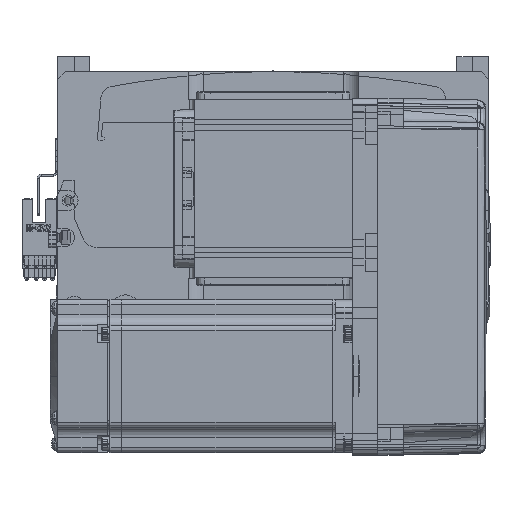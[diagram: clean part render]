
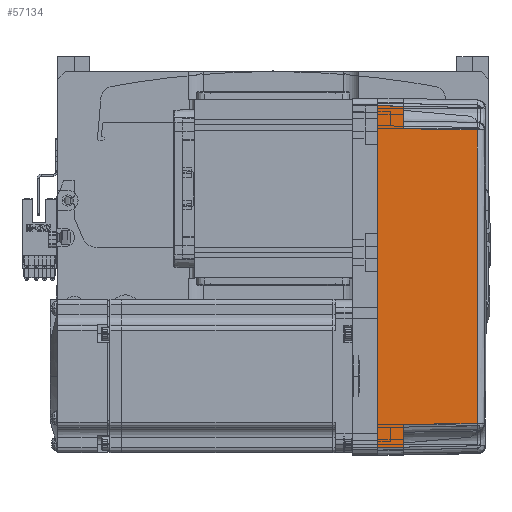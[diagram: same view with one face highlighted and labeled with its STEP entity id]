
A CAD part, top view. The second image highlights one B-rep face of the part: STEP entity #57134.
In plain terms, the highlighted planar face has unit normal (0.018, 0, 1) as drawn and (0, 1, 0.017) by its records, which use the part's own axes.
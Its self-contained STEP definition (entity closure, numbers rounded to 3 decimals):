
#463 = VECTOR ( 'NONE', #32838, 1000. ) ;
#2207 = CARTESIAN_POINT ( 'NONE',  ( -57.495, 35.32, 38.985 ) ) ;
#3058 = CARTESIAN_POINT ( 'NONE',  ( 66.826, 35.825, 10. ) ) ;
#3068 = LINE ( 'NONE', #60384, #463 ) ;
#3210 = ORIENTED_EDGE ( 'NONE', *, *, #24747, .T. ) ;
#3619 = ORIENTED_EDGE ( 'NONE', *, *, #3929, .F. ) ;
#3929 = EDGE_CURVE ( 'NONE', #18194, #4756, #70316, .T. ) ;
#4472 = EDGE_CURVE ( 'NONE', #66105, #45397, #36586, .T. ) ;
#4689 = VECTOR ( 'NONE', #68764, 1000. ) ;
#4721 = LINE ( 'NONE', #23694, #61255 ) ;
#4756 = VERTEX_POINT ( 'NONE', #3058 ) ;
#7611 = ORIENTED_EDGE ( 'NONE', *, *, #64737, .T. ) ;
#11034 = CARTESIAN_POINT ( 'NONE',  ( 19.165, 35.316, 39.181 ) ) ;
#13563 = DIRECTION ( 'NONE',  ( 1., 0., 0. ) ) ;
#15093 = CARTESIAN_POINT ( 'NONE',  ( 67., 36., 0. ) ) ;
#15288 = VECTOR ( 'NONE', #46396, 1000. ) ;
#15770 = CARTESIAN_POINT ( 'NONE',  ( 67.001, 36.001, -0.052 ) ) ;
#18194 = VERTEX_POINT ( 'NONE', #15093 ) ;
#19246 = LINE ( 'NONE', #36458, #4689 ) ;
#22362 = CARTESIAN_POINT ( 'NONE',  ( 58., 35.825, 10. ) ) ;
#22989 = LINE ( 'NONE', #52586, #15288 ) ;
#23694 = CARTESIAN_POINT ( 'NONE',  ( 0., 36., 0. ) ) ;
#24383 = DIRECTION ( 'NONE',  ( 1., 0., 0. ) ) ;
#24747 = EDGE_CURVE ( 'NONE', #55119, #68368, #3068, .T. ) ;
#24842 = DIRECTION ( 'NONE',  ( 0., -0.017, 1. ) ) ;
#26131 = CARTESIAN_POINT ( 'NONE',  ( 57.495, 35.32, 38.985 ) ) ;
#26788 = VERTEX_POINT ( 'NONE', #29745 ) ;
#27159 = AXIS2_PLACEMENT_3D ( 'NONE', #57838, #31029, #24842 ) ;
#27819 = VERTEX_POINT ( 'NONE', #22362 ) ;
#28167 = ORIENTED_EDGE ( 'NONE', *, *, #4472, .T. ) ;
#29745 = CARTESIAN_POINT ( 'NONE',  ( -58., 35.825, 10. ) ) ;
#31029 = DIRECTION ( 'NONE',  ( 0., 1., 0.017 ) ) ;
#32838 = DIRECTION ( 'NONE',  ( 0.017, -0.017, 1. ) ) ;
#34388 = VECTOR ( 'NONE', #58841, 1000. ) ;
#36458 = CARTESIAN_POINT ( 'NONE',  ( 57.495, 35.32, 38.985 ) ) ;
#36521 = PLANE ( 'NONE',  #27159 ) ;
#36586 = B_SPLINE_CURVE_WITH_KNOTS ( 'NONE', 3,
 ( #43803, #44265, #11034, #65341 ),
 .UNSPECIFIED., .F., .F.,
 ( 4, 4 ),
 ( 0., 1. ),
 .UNSPECIFIED. ) ;
#37068 = LINE ( 'NONE', #51553, #39642 ) ;
#37778 = DIRECTION ( 'NONE',  ( 0.017, -0.017, 1. ) ) ;
#38012 = CARTESIAN_POINT ( 'NONE',  ( -58., 35.825, 10. ) ) ;
#38175 = ORIENTED_EDGE ( 'NONE', *, *, #51058, .T. ) ;
#39642 = VECTOR ( 'NONE', #13563, 1000. ) ;
#40330 = CARTESIAN_POINT ( 'NONE',  ( -66.826, 35.825, 10. ) ) ;
#41195 = EDGE_CURVE ( 'NONE', #68368, #26788, #37068, .T. ) ;
#43803 = CARTESIAN_POINT ( 'NONE',  ( -57.495, 35.32, 38.985 ) ) ;
#44265 = CARTESIAN_POINT ( 'NONE',  ( -19.165, 35.316, 39.181 ) ) ;
#44948 = VECTOR ( 'NONE', #37778, 1000. ) ;
#45397 = VERTEX_POINT ( 'NONE', #26131 ) ;
#46396 = DIRECTION ( 'NONE',  ( 1., 0., 0. ) ) ;
#46964 = FACE_OUTER_BOUND ( 'NONE', #66323, .T. ) ;
#51058 = EDGE_CURVE ( 'NONE', #26788, #66105, #53440, .T. ) ;
#51553 = CARTESIAN_POINT ( 'NONE',  ( 70., 35.825, 10. ) ) ;
#51646 = CARTESIAN_POINT ( 'NONE',  ( -67., 36., 0. ) ) ;
#52586 = CARTESIAN_POINT ( 'NONE',  ( 70., 35.825, 10. ) ) ;
#53102 = ORIENTED_EDGE ( 'NONE', *, *, #69482, .T. ) ;
#53440 = LINE ( 'NONE', #38012, #44948 ) ;
#55119 = VERTEX_POINT ( 'NONE', #51646 ) ;
#56176 = ORIENTED_EDGE ( 'NONE', *, *, #70773, .F. ) ;
#57134 = ADVANCED_FACE ( 'NONE', ( #46964 ), #36521, .T. ) ;
#57838 = CARTESIAN_POINT ( 'NONE',  ( 70., 36., 0. ) ) ;
#58841 = DIRECTION ( 'NONE',  ( -0.017, -0.017, 1. ) ) ;
#60384 = CARTESIAN_POINT ( 'NONE',  ( -67., 36., 0. ) ) ;
#61255 = VECTOR ( 'NONE', #24383, 1000. ) ;
#64584 = ORIENTED_EDGE ( 'NONE', *, *, #41195, .T. ) ;
#64737 = EDGE_CURVE ( 'NONE', #45397, #27819, #19246, .T. ) ;
#65341 = CARTESIAN_POINT ( 'NONE',  ( 57.495, 35.32, 38.985 ) ) ;
#66105 = VERTEX_POINT ( 'NONE', #2207 ) ;
#66323 = EDGE_LOOP ( 'NONE', ( #3210, #64584, #38175, #28167, #7611, #53102, #3619, #56176 ) ) ;
#68368 = VERTEX_POINT ( 'NONE', #40330 ) ;
#68764 = DIRECTION ( 'NONE',  ( 0.017, 0.017, -1. ) ) ;
#69482 = EDGE_CURVE ( 'NONE', #27819, #4756, #22989, .T. ) ;
#70316 = LINE ( 'NONE', #15770, #34388 ) ;
#70773 = EDGE_CURVE ( 'NONE', #55119, #18194, #4721, .T. ) ;
